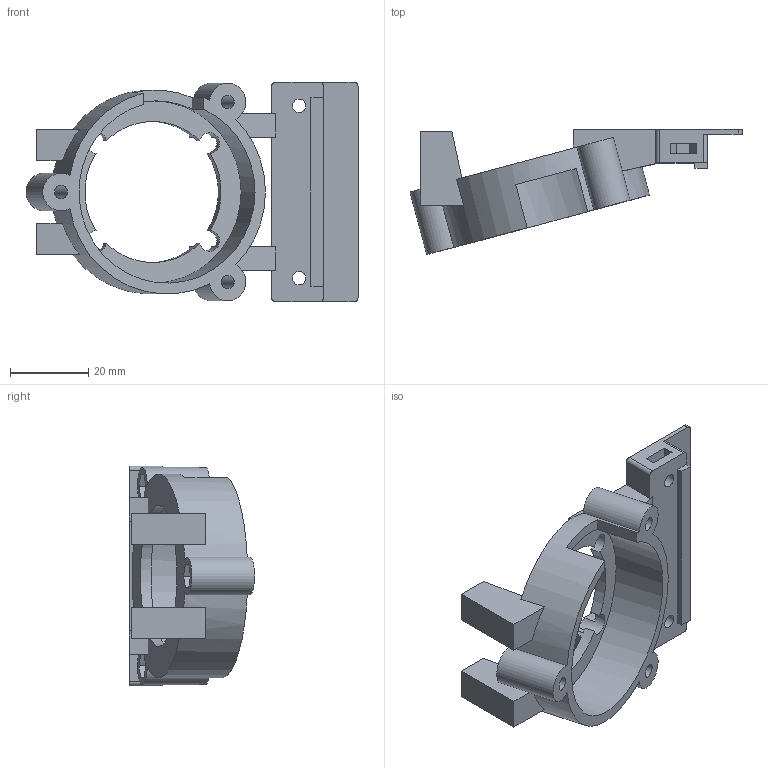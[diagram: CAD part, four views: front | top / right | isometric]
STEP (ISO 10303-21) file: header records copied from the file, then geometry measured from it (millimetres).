
FILE_DESCRIPTION(('Open CASCADE Model'),'2;1');
FILE_NAME('Open CASCADE Shape Model','2026-09-09T13:59:16',('Author'),( 'Open CASCADE'),'Open CASCADE STEP processor 7.9','Open CASCADE 7.9' ,'Unknown');
FILE_SCHEMA(('AUTOMOTIVE_DESIGN { 1 0 10303 214 1 1 1 1 }'));
Length unit declared in the file: millimetre
Products named in the file (1): Open CASCADE STEP translator 7.9 1
Bounding box: 84.68 x 31.93 x 56 mm (x, y, z)
Volume: 21383.7 mm3; surface area: 14325.8 mm2
Topology: 1 solids, 1 shells, 108 faces, 312 edges, 208 vertices
Faces by surface type: plane 76, cylinder 28, bspline 4
Full cylindrical faces by diameter (mm): 3.4 x7, 46.5 x1
Entity records: 7991 total; most frequent: CARTESIAN_POINT 1833, DIRECTION 1127, LINE 730, VECTOR 730, ORIENTED_EDGE 624, PCURVE 624, DEFINITIONAL_REPRESENTATION 624, EDGE_CURVE 312
